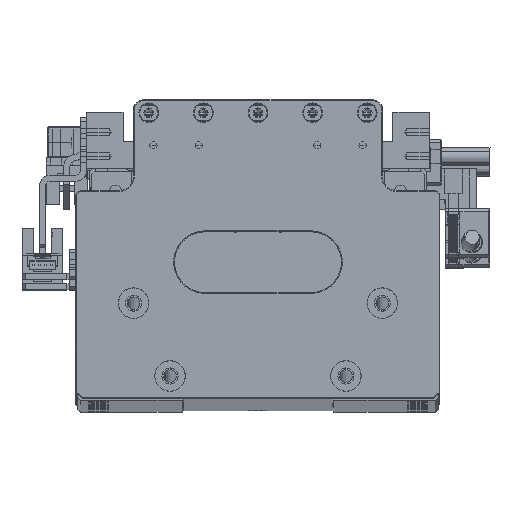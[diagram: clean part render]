
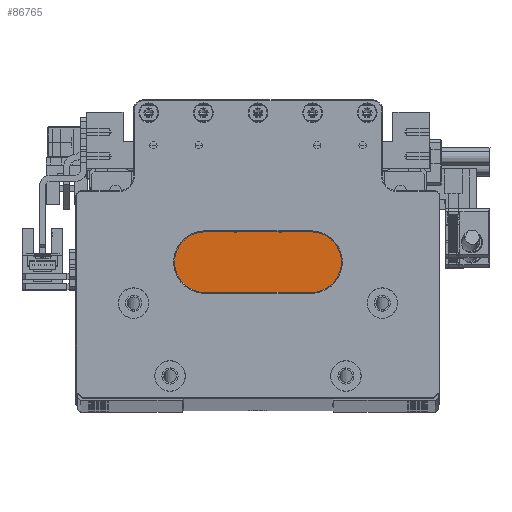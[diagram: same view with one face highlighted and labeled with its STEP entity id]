
A CAD part, top view. The second image highlights one B-rep face of the part: STEP entity #86765.
In plain terms, the highlighted planar face has unit normal (0, 0, 1).
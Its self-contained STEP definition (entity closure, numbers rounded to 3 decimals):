
#585 = DIRECTION ( 'NONE',  ( 1., 0., 0. ) ) ;
#692 = DIRECTION ( 'NONE',  ( 0., 0., -1. ) ) ;
#3500 = ORIENTED_EDGE ( 'NONE', *, *, #79679, .T. ) ;
#3826 = DIRECTION ( 'NONE',  ( 1., 0., 0. ) ) ;
#4800 = VERTEX_POINT ( 'NONE', #80120 ) ;
#4983 = DIRECTION ( 'NONE',  ( 0., 0., -1. ) ) ;
#5141 = EDGE_CURVE ( 'NONE', #117408, #80578, #34140, .T. ) ;
#5256 = CIRCLE ( 'NONE', #36567, 1.25 ) ;
#5339 = CARTESIAN_POINT ( 'NONE',  ( 4.118, -17.023, 375. ) ) ;
#7168 = EDGE_CURVE ( 'NONE', #134581, #73997, #17336, .T. ) ;
#8196 = CARTESIAN_POINT ( 'NONE',  ( 13.868, -9.223, 375. ) ) ;
#9908 = CARTESIAN_POINT ( 'NONE',  ( -10.882, -17.023, 375. ) ) ;
#10327 = CARTESIAN_POINT ( 'NONE',  ( -23.132, -17.023, 375. ) ) ;
#11802 = CARTESIAN_POINT ( 'NONE',  ( -34.432, -49.223, 375. ) ) ;
#15869 = ORIENTED_EDGE ( 'NONE', *, *, #66010, .T. ) ;
#17336 = LINE ( 'NONE', #114546, #20594 ) ;
#18781 = VERTEX_POINT ( 'NONE', #8196 ) ;
#20571 = CARTESIAN_POINT ( 'NONE',  ( -23.132, -9.223, 375. ) ) ;
#20594 = VECTOR ( 'NONE', #104438, 1000. ) ;
#21094 = EDGE_CURVE ( 'NONE', #48808, #47199, #122823, .T. ) ;
#28678 = VERTEX_POINT ( 'NONE', #36949 ) ;
#29974 = DIRECTION ( 'NONE',  ( -1., 0., 0. ) ) ;
#34089 = LINE ( 'NONE', #87594, #90073 ) ;
#34140 = LINE ( 'NONE', #45243, #90117 ) ;
#35016 = CARTESIAN_POINT ( 'NONE',  ( -12.132, -17.023, 375. ) ) ;
#36567 = AXIS2_PLACEMENT_3D ( 'NONE', #120198, #57206, #130705 ) ;
#36605 = LINE ( 'NONE', #68872, #117192 ) ;
#36949 = CARTESIAN_POINT ( 'NONE',  ( 1.618, -17.023, 375. ) ) ;
#37737 = ORIENTED_EDGE ( 'NONE', *, *, #7168, .T. ) ;
#38811 = CARTESIAN_POINT ( 'NONE',  ( 25.168, -49.223, 375. ) ) ;
#41501 = EDGE_CURVE ( 'NONE', #134217, #117408, #110883, .T. ) ;
#41736 = EDGE_LOOP ( 'NONE', ( #125411, #3500, #37737, #94368, #88631, #95732, #65470, #110246 ) ) ;
#43752 = DIRECTION ( 'NONE',  ( -1., 0., 0. ) ) ;
#43792 = CARTESIAN_POINT ( 'NONE',  ( -34.432, -17.023, 375. ) ) ;
#45243 = CARTESIAN_POINT ( 'NONE',  ( 25.168, -9.023, 375. ) ) ;
#45605 = DIRECTION ( 'NONE',  ( 1., 0., 0. ) ) ;
#47199 = VERTEX_POINT ( 'NONE', #9908 ) ;
#47637 = EDGE_LOOP ( 'NONE', ( #64866, #56871 ) ) ;
#48808 = VERTEX_POINT ( 'NONE', #81446 ) ;
#51774 = VECTOR ( 'NONE', #43752, 1000. ) ;
#53104 = EDGE_LOOP ( 'NONE', ( #15869, #83948 ) ) ;
#53496 = VERTEX_POINT ( 'NONE', #20571 ) ;
#55055 = LINE ( 'NONE', #117267, #51774 ) ;
#56871 = ORIENTED_EDGE ( 'NONE', *, *, #21094, .T. ) ;
#57206 = DIRECTION ( 'NONE',  ( 0., 0., -1. ) ) ;
#59178 = VECTOR ( 'NONE', #29974, 1000. ) ;
#62114 = CARTESIAN_POINT ( 'NONE',  ( 25.168, -17.023, 375. ) ) ;
#63509 = CARTESIAN_POINT ( 'NONE',  ( -34.632, -49.223, 375. ) ) ;
#63619 = CARTESIAN_POINT ( 'NONE',  ( 2.868, -17.023, 375. ) ) ;
#64579 = VERTEX_POINT ( 'NONE', #5339 ) ;
#64866 = ORIENTED_EDGE ( 'NONE', *, *, #92989, .T. ) ;
#65470 = ORIENTED_EDGE ( 'NONE', *, *, #106200, .T. ) ;
#65884 = DIRECTION ( 'NONE',  ( 0., 1., 0. ) ) ;
#66010 = EDGE_CURVE ( 'NONE', #64579, #28678, #135898, .T. ) ;
#66756 = DIRECTION ( 'NONE',  ( 0., 0., 1. ) ) ;
#67937 = CARTESIAN_POINT ( 'NONE',  ( -12.132, -17.023, 375. ) ) ;
#68872 = CARTESIAN_POINT ( 'NONE',  ( 13.868, -9.023, 375. ) ) ;
#70829 = DIRECTION ( 'NONE',  ( 0., -1., 0. ) ) ;
#73997 = VERTEX_POINT ( 'NONE', #43792 ) ;
#74208 = DIRECTION ( 'NONE',  ( 1., 0., 0. ) ) ;
#74565 = AXIS2_PLACEMENT_3D ( 'NONE', #35016, #108525, #45605 ) ;
#75789 = AXIS2_PLACEMENT_3D ( 'NONE', #67937, #4983, #78528 ) ;
#77277 = CIRCLE ( 'NONE', #75789, 1.25 ) ;
#78528 = DIRECTION ( 'NONE',  ( 1., 0., 0. ) ) ;
#79679 = EDGE_CURVE ( 'NONE', #53496, #134581, #34089, .T. ) ;
#80120 = CARTESIAN_POINT ( 'NONE',  ( 13.868, -17.023, 375. ) ) ;
#80578 = VERTEX_POINT ( 'NONE', #62114 ) ;
#81446 = CARTESIAN_POINT ( 'NONE',  ( -13.382, -17.023, 375. ) ) ;
#81924 = VECTOR ( 'NONE', #70829, 1000. ) ;
#82989 = VECTOR ( 'NONE', #585, 1000. ) ;
#83090 = EDGE_CURVE ( 'NONE', #4800, #18781, #36605, .T. ) ;
#83312 = AXIS2_PLACEMENT_3D ( 'NONE', #98052, #66756, #3826 ) ;
#83948 = ORIENTED_EDGE ( 'NONE', *, *, #111036, .T. ) ;
#86765 = ADVANCED_FACE ( 'NONE', ( #100578, #131759, #103871 ), #129673, .T. ) ;
#87594 = CARTESIAN_POINT ( 'NONE',  ( -23.132, -9.023, 375. ) ) ;
#88631 = ORIENTED_EDGE ( 'NONE', *, *, #41501, .T. ) ;
#90073 = VECTOR ( 'NONE', #119223, 1000. ) ;
#90117 = VECTOR ( 'NONE', #65884, 1000. ) ;
#92989 = EDGE_CURVE ( 'NONE', #47199, #48808, #77277, .T. ) ;
#92991 = CARTESIAN_POINT ( 'NONE',  ( -4.632, -17.023, 375. ) ) ;
#94175 = EDGE_CURVE ( 'NONE', #73997, #134217, #134441, .T. ) ;
#94368 = ORIENTED_EDGE ( 'NONE', *, *, #94175, .T. ) ;
#95732 = ORIENTED_EDGE ( 'NONE', *, *, #5141, .T. ) ;
#98052 = CARTESIAN_POINT ( 'NONE',  ( -4.632, -9.023, 375. ) ) ;
#100578 = FACE_OUTER_BOUND ( 'NONE', #41736, .T. ) ;
#101758 = AXIS2_PLACEMENT_3D ( 'NONE', #63619, #692, #74208 ) ;
#103871 = FACE_BOUND ( 'NONE', #47637, .T. ) ;
#104438 = DIRECTION ( 'NONE',  ( -1., 0., 0. ) ) ;
#106200 = EDGE_CURVE ( 'NONE', #80578, #4800, #111764, .T. ) ;
#107975 = EDGE_CURVE ( 'NONE', #18781, #53496, #55055, .T. ) ;
#108525 = DIRECTION ( 'NONE',  ( 0., 0., -1. ) ) ;
#110246 = ORIENTED_EDGE ( 'NONE', *, *, #83090, .T. ) ;
#110883 = LINE ( 'NONE', #63509, #82989 ) ;
#111036 = EDGE_CURVE ( 'NONE', #28678, #64579, #5256, .T. ) ;
#111764 = LINE ( 'NONE', #92991, #59178 ) ;
#114546 = CARTESIAN_POINT ( 'NONE',  ( -4.632, -17.023, 375. ) ) ;
#117192 = VECTOR ( 'NONE', #121243, 1000. ) ;
#117267 = CARTESIAN_POINT ( 'NONE',  ( -4.632, -9.223, 375. ) ) ;
#117408 = VERTEX_POINT ( 'NONE', #38811 ) ;
#119223 = DIRECTION ( 'NONE',  ( 0., -1., 0. ) ) ;
#120198 = CARTESIAN_POINT ( 'NONE',  ( 2.868, -17.023, 375. ) ) ;
#121243 = DIRECTION ( 'NONE',  ( 0., 1., 0. ) ) ;
#122823 = CIRCLE ( 'NONE', #74565, 1.25 ) ;
#125411 = ORIENTED_EDGE ( 'NONE', *, *, #107975, .T. ) ;
#129673 = PLANE ( 'NONE',  #83312 ) ;
#130705 = DIRECTION ( 'NONE',  ( 1., 0., 0. ) ) ;
#131759 = FACE_BOUND ( 'NONE', #53104, .T. ) ;
#133749 = CARTESIAN_POINT ( 'NONE',  ( -34.432, -9.023, 375. ) ) ;
#134217 = VERTEX_POINT ( 'NONE', #11802 ) ;
#134441 = LINE ( 'NONE', #133749, #81924 ) ;
#134581 = VERTEX_POINT ( 'NONE', #10327 ) ;
#135898 = CIRCLE ( 'NONE', #101758, 1.25 ) ;
